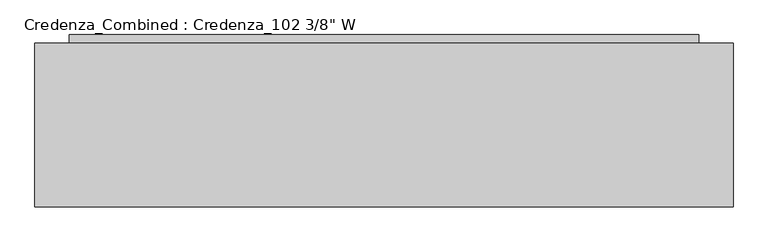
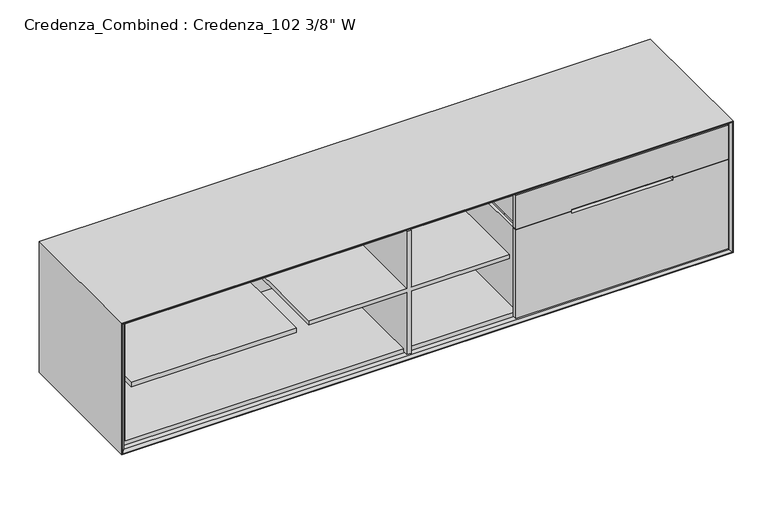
"""IFC4 building model written with IfcOpenShell, lengths in millimetres: furniture geometry."""

from ifc_helpers import new_model, si_unit, frame, origin, origin_with_axes, place, context, project, spatial, polyline, outline, extrude, faceted_brep, source, transform, mapped, element, save


def furniture_ccd57bb4(model_context):
    return source(origin(), model_context, "Body", "SolidModel", [
        faceted_brep([(2566.9875, 609.6, 478.63125), (1698.625, 609.6, 478.63125), (1698.625, 28.575, 478.63125), (2566.9875, 28.575, 478.63125), (1711.325, 596.9, 478.63125), (2552.7, 596.9, 478.63125), (2552.7, 41.275, 478.63125), (1711.325, 41.275, 478.63125), (2566.9875, 609.6, 105.56875), (1698.625, 609.6, 105.56875), (1698.625, 28.575, 105.56875), (2566.9875, 28.575, 105.56875), (1711.325, 596.9, 118.26875), (2552.7, 596.9, 118.26875), (2552.7, 41.275, 118.26875), (1711.325, 41.275, 118.26875)], [[[0, 1, 2, 3], [4, 5, 6, 7]], [[1, 0, 8, 9]], [[2, 1, 9, 10]], [[3, 2, 10, 11]], [[8, 0, 3, 11]], [[5, 4, 12, 13]], [[6, 5, 13, 14]], [[7, 6, 14, 15]], [[4, 7, 15, 12]], [[13, 12, 15, 14]], [[8, 11, 10, 9]]]),
        faceted_brep([(2552.7, 596.9, 519.90625), (1711.325, 596.9, 519.90625), (1711.325, 41.275, 519.90625), (2552.7, 41.275, 519.90625), (2566.9875, 609.6, 507.20625), (2566.9875, 28.575, 507.20625), (1698.625, 28.575, 507.20625), (1698.625, 609.6, 507.20625), (1698.625, 609.6, 634.20625), (2566.9875, 609.6, 634.20625), (1698.625, 28.575, 634.20625), (2566.9875, 28.575, 634.20625), (1711.325, 596.9, 634.20625), (2552.7, 596.9, 634.20625), (2552.7, 41.275, 634.20625), (1711.325, 41.275, 634.20625)], [[[0, 1, 2, 3]], [[4, 5, 6, 7]], [[4, 7, 8, 9]], [[8, 7, 6, 10]], [[10, 6, 5, 11]], [[11, 5, 4, 9]], [[9, 8, 10, 11], [12, 13, 14, 15]], [[13, 12, 1, 0]], [[14, 13, 0, 3]], [[15, 14, 3, 2]], [[12, 15, 2, 1]]]),
        extrude(outline(polyline([(504.03125, 1681.1625), (105.56875, 1681.1625), (105.56875, 2584.45), (504.03125, 2584.45), (504.03125, 2348.70625), (494.7030946, 2348.70625), (494.7030946, 1916.90625), (504.03125, 1916.90625), (504.03125, 1681.1625)])), frame((0.0, 9.525, 0.0), z_axis=(0.0, 1.0, 0.0), x_axis=(0.0, 0.0, 1.0)), (0.0, 0.0, 1.0), 19.05),
        extrude(outline(polyline([(659.60625, 2584.45), (659.60625, 1681.1625), (507.20625, 1681.1625), (507.20625, 1916.90625), (513.3594054, 1916.90625), (513.3594054, 2348.70625), (507.20625, 2348.70625), (507.20625, 2584.45), (659.60625, 2584.45)])), frame((0.0, 9.525, 0.0), z_axis=(0.0, 1.0, 0.0), x_axis=(0.0, 0.0, 1.0)), (0.0, 0.0, 1.0), 19.05),
        extrude(outline(polyline([(659.60625, 1235.86875), (659.60625, 1216.81875), (404.01875, 1216.81875), (404.01875, 800.1), (384.96875, 800.1), (384.96875, 1216.81875), (105.56875, 1216.81875), (105.56875, 1235.86875), (384.96875, 1235.86875), (384.96875, 1652.5875), (404.01875, 1652.5875), (404.01875, 1235.86875), (659.60625, 1235.86875)])), frame((0.0, 9.525, 0.0), z_axis=(0.0, 1.0, 0.0), x_axis=(0.0, 0.0, 1.0)), (0.0, 0.0, 1.0), 600.075),
        extrude(outline(polyline([(2473.325, 609.6), (2473.325, 241.3), (127.0, 241.3), (127.0, 609.6), (2473.325, 609.6)])), origin_with_axes(), (0.0, 0.0, 1.0), 87.3125),
        extrude(outline(polyline([(2473.325, 641.35), (2473.325, 609.6), (127.0, 609.6), (127.0, 641.35), (2473.325, 641.35)])), origin_with_axes(), (0.0, 0.0, 1.0), 647.7),
        extrude(outline(polyline([(665.1625, 2587.625), (665.1625, 12.7), (100.0125, 12.7), (100.0125, 2587.625), (665.1625, 2587.625)]), holes=[polyline([(646.1125, 31.75), (646.1125, 2568.575), (119.0625, 2568.575), (119.0625, 31.75), (646.1125, 31.75)])]), frame((0.0, 31.75, 0.0), z_axis=(0.0, 1.0, 0.0), x_axis=(0.0, 0.0, 1.0)), (0.0, 0.0, 1.0), 577.85),
        faceted_brep([(2587.625, 9.525, 665.1625), (2587.625, 609.6, 665.1625), (2587.625, 609.6, 100.0125), (2587.625, 9.525, 100.0125), (2597.15, 0.0, 674.6875), (2597.15, 0.0, 90.4875), (2600.325, 609.6, 677.8625), (2600.325, 0.0, 677.8625), (2600.325, 0.0, 87.3125), (2600.325, 609.6, 87.3125), (12.7, 609.6, 100.0125), (12.7, 9.525, 100.0125), (3.175, 0.0, 90.4875), (0.0, 0.0, 87.3125), (0.0, 609.6, 87.3125), (12.7, 609.6, 665.1625), (12.7, 9.525, 665.1625), (3.175, 0.0, 674.6875), (0.0, 0.0, 677.8625), (0.0, 609.6, 677.8625)], [[[0, 1, 2, 3]], [[4, 0, 3, 5]], [[6, 7, 8, 9]], [[3, 2, 10, 11]], [[5, 3, 11, 12]], [[9, 8, 13, 14]], [[11, 10, 15, 16]], [[12, 11, 16, 17]], [[14, 13, 18, 19]], [[9, 14, 19, 6], [1, 15, 10, 2]], [[16, 15, 1, 0]], [[17, 16, 0, 4]], [[7, 18, 13, 8], [5, 12, 17, 4]], [[19, 18, 7, 6]]]),
        extrude(outline(polyline([(746.125, 609.6), (746.125, 9.525), (44.45, 9.525), (44.45, 609.6), (746.125, 609.6)])), frame((0.0, 0.0, 371.475), z_axis=(0.0, 0.0, 1.0), x_axis=(1.0, 0.0, 0.0)), (0.0, 0.0, 1.0), 19.05),
    ])


if __name__ == "__main__":
    model = new_model("IFC4")
    model_context = context("Model", 3, world=origin())
    ifc_project = project(units=[si_unit("LENGTHUNIT", "METRE", prefix="MILLI")], contexts=[model_context])
    site = spatial("IfcSite", under=ifc_project)
    building = spatial("IfcBuilding", under=site)
    placement = place(None, origin())
    furniture_shape = furniture_ccd57bb4(model_context)
    element("IfcFurniture", 1, ObjectType="Credenza_Combined : Credenza_102 3/8\" W", at=placement, inside=building, context=model_context, shape_type="MappedRepresentation", body=[
        mapped(furniture_shape, transform((0.0, 0.0, 0.0), x_axis=(1.0, 0.0, 0.0), y_axis=(0.0, 1.0, 0.0), z_axis=(0.0, 0.0, 1.0))),
    ])
    save(model, "model.ifc")
